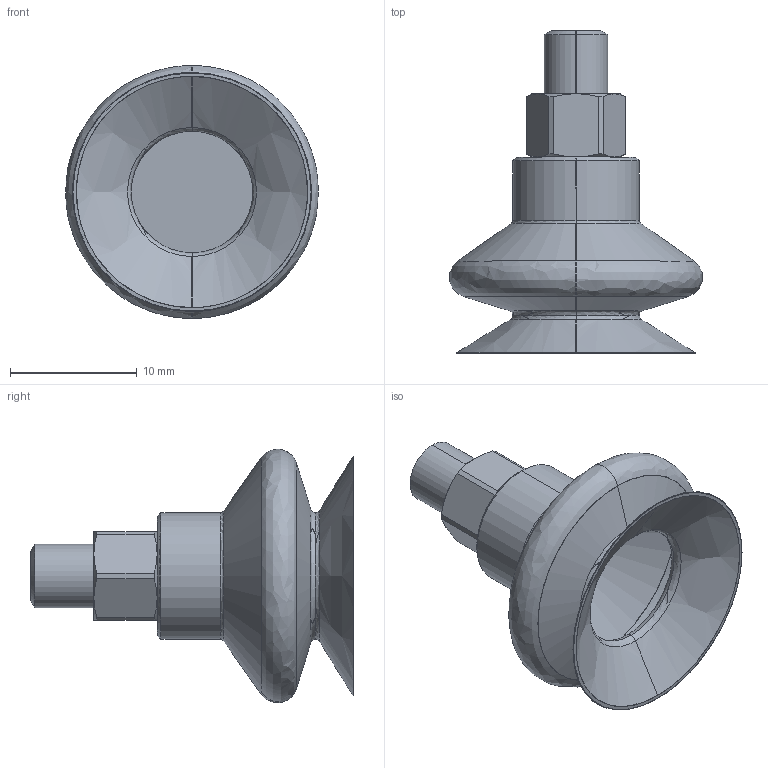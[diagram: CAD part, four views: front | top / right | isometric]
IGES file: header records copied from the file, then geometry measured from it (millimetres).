
Start section: SolidWorks IGES file using analytic representation for surfaces
Global section: file name: E:\eins\20070625石神\シュマルツ\SFSGAシリーズ\183877.IGS; native system: SolidWorks 2006 by SolidWorks Corporation; preprocessor: SolidWorks 2006 by SolidWorks Corporation; author: CAD54; date: 070625.173330; units: millimetre
Bounding box: 19.96 x 25.5 x 19.99 mm (x, y, z)
Surface area: 2541.9 mm2 (no closed solid volume)
Topology: 0 solids, 0 shells, 72 faces, 652 edges, 652 vertices
Faces by surface type: bspline 38, revolution 34
